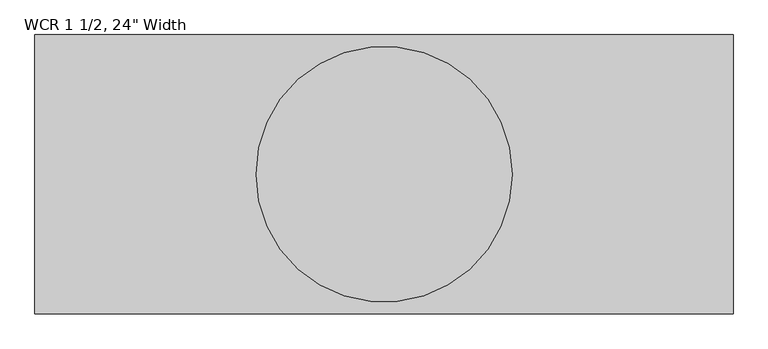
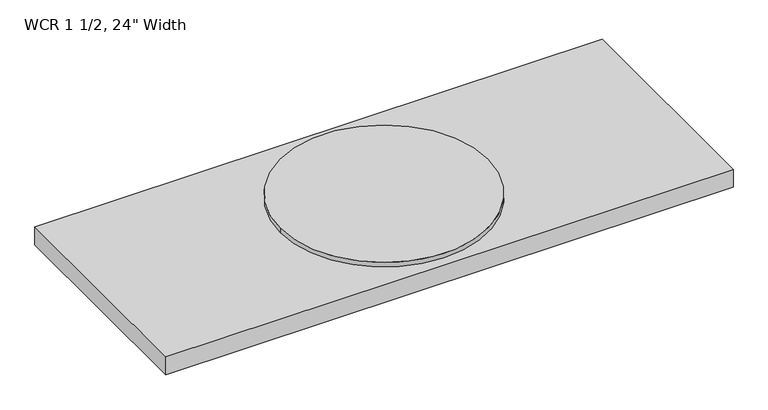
"""IFC4 building model written with IfcOpenShell, lengths in millimetres: proxy geometry."""

import ifcopenshell
import ifcopenshell.guid

model = None  # the IFC model being written
_history = None  # IfcOwnerHistory: only IFC2X3 demands one
_inside = {}  # id of a spatial element -> (the spatial element, [elements in it])
_under = {}  # id of a project, library or spatial element -> (it, [spatial elements below it])
_declared = {}  # id of a project -> (the project, [libraries it declares])
_typed = {}  # id of a type object -> (the type object, [elements of that type])
_made_of = {}  # id of a material, layer set ... -> (it, [elements and type objects made of it])


def new_model(schema):
    """Start an empty IFC model of exactly this schema.

    Asked for "IFC4X3", IfcOpenShell would pick the latest addendum, in which some entities
    have other attributes; the version numbers below select the first issue.
    IFC2X3 requires an IfcOwnerHistory on every rooted entity: one is made here for all.
    """
    global model, _history
    if schema == "IFC4X3":
        model = ifcopenshell.file(schema_version=(4, 3, 0, 0))
    else:
        model = ifcopenshell.file(schema=schema)
    _inside.clear()
    _under.clear()
    _declared.clear()
    _typed.clear()
    _made_of.clear()
    _history = None
    if model.schema == "IFC2X3":
        org = make("IfcOrganization", Name="unknown")
        user = make(
            "IfcPersonAndOrganization",
            ThePerson=make("IfcPerson", FamilyName="unknown"),
            TheOrganization=org,
        )
        app = make(
            "IfcApplication",
            ApplicationDeveloper=org,
            Version="unknown",
            ApplicationFullName="unknown",
            ApplicationIdentifier="unknown",
        )
        _history = make(
            "IfcOwnerHistory",
            OwningUser=user,
            OwningApplication=app,
            ChangeAction="ADDED",
            CreationDate=0,
        )
    return model


def make(cls, **values):
    """One entity of the class cls with the attributes given. An attribute that is None is left unset."""
    return model.create_entity(
        cls, **{name: value for name, value in values.items() if value is not None}
    )


def rooted(cls, **values):
    """An entity with a GlobalId (a new one), such as an element, a storey or a relation."""
    return make(cls, GlobalId=ifcopenshell.guid.new(), OwnerHistory=_history, **values)


def si_unit(unit_type, name, prefix=None):
    """IfcSIUnit, for example si_unit("LENGTHUNIT", "METRE", prefix="MILLI")."""
    return make("IfcSIUnit", UnitType=unit_type, Prefix=prefix, Name=name)


def assignment(units):
    """IfcUnitAssignment: the units of a project."""
    return None if units is None else make("IfcUnitAssignment", Units=units)


def point(xyz):
    """IfcCartesianPoint."""
    return None if xyz is None else make("IfcCartesianPoint", Coordinates=xyz)


def direction(xyz):
    """IfcDirection."""
    return None if xyz is None else make("IfcDirection", DirectionRatios=xyz)


def frame(location, z_axis=None, x_axis=None):
    """IfcAxis2Placement3D, a coordinate frame: its origin and axes. An axis left out is left unset."""
    return make(
        "IfcAxis2Placement3D",
        Location=point(location),
        Axis=direction(z_axis),
        RefDirection=direction(x_axis),
    )


def frame_2d(location, x_axis=None):
    """IfcAxis2Placement2D, a coordinate frame in the plane: its origin and x axis."""
    return make(
        "IfcAxis2Placement2D", Location=point(location), RefDirection=direction(x_axis)
    )


def origin():
    """The frame at (0, 0, 0) with its axes left unset."""
    return frame((0.0, 0.0, 0.0))


def origin_2d():
    """The frame at (0, 0) in the plane with its x axis left unset."""
    return frame_2d((0.0, 0.0))


def place(relative_to, where):
    """IfcLocalPlacement: puts the frame where relative to a parent placement (None: the world)."""
    return make(
        "IfcLocalPlacement", PlacementRelTo=relative_to, RelativePlacement=where
    )


def context(
    kind, dimensions, precision=None, world=None, true_north=None, identifier=None
):
    """IfcGeometricRepresentationContext, for example the 3D "Model" context."""
    return make(
        "IfcGeometricRepresentationContext",
        ContextIdentifier=identifier,
        ContextType=kind,
        CoordinateSpaceDimension=dimensions,
        Precision=precision,
        WorldCoordinateSystem=world,
        TrueNorth=true_north,
    )


def project(units=None, contexts=None):
    """IfcProject with its units and contexts."""
    return rooted(
        "IfcProject",
        Name="project",
        RepresentationContexts=contexts,
        UnitsInContext=assignment(units),
    )


def spatial(cls, under=None, at=None, **own):
    """A site, building, storey or space (cls), placed at a placement, below another one or the project."""
    s = rooted(cls, ObjectPlacement=at, **own)
    if under is not None:
        _under.setdefault(under.id(), (under, []))[1].append(s)
    return s


def polyline(points):
    """IfcPolyline through the points."""
    return make("IfcPolyline", Points=[point(p) for p in points])


def circle_curve(where, radius):
    """IfcCircle in the frame where."""
    return make("IfcCircle", Position=where, Radius=radius)


def trimmed(basis, trim1, trim2, sense, master):
    """IfcTrimmedCurve: the piece of a basis curve between two trims."""
    return make(
        "IfcTrimmedCurve",
        BasisCurve=basis,
        Trim1=trim1,
        Trim2=trim2,
        SenseAgreement=sense,
        MasterRepresentation=master,
    )


def segment(curve, same_sense, transition):
    """IfcCompositeCurveSegment."""
    return make(
        "IfcCompositeCurveSegment",
        Transition=transition,
        SameSense=same_sense,
        ParentCurve=curve,
    )


def composite_curve(segments, self_intersect=None):
    """IfcCompositeCurve: segments joined end to end."""
    return make("IfcCompositeCurve", Segments=segments, SelfIntersect=self_intersect)


def outline(outer, holes=None, kind="AREA"):
    """IfcArbitraryClosedProfileDef: a profile drawn as a closed curve; with holes, ...WithVoids."""
    if holes is None:
        return make("IfcArbitraryClosedProfileDef", ProfileType=kind, OuterCurve=outer)
    return make(
        "IfcArbitraryProfileDefWithVoids",
        ProfileType=kind,
        OuterCurve=outer,
        InnerCurves=holes,
    )


def extrude(swept, where, along, depth):
    """IfcExtrudedAreaSolid: the profile swept, set in the frame where, extruded along a direction by depth."""
    return make(
        "IfcExtrudedAreaSolid",
        SweptArea=swept,
        Position=where,
        ExtrudedDirection=direction(along),
        Depth=depth,
    )


def shape(context_of_items, identifier, shape_type, items):
    """IfcShapeRepresentation: the items that make up one representation, for example the "Body"."""
    return make(
        "IfcShapeRepresentation",
        ContextOfItems=context_of_items,
        RepresentationIdentifier=identifier,
        RepresentationType=shape_type,
        Items=items,
    )


def source(mapping_origin, context_of_items, identifier, shape_type, items):
    """IfcRepresentationMap: a shape defined once, which mapped items show again and again."""
    return make(
        "IfcRepresentationMap",
        MappingOrigin=mapping_origin,
        MappedRepresentation=shape(context_of_items, identifier, shape_type, items),
    )


def transform(
    local_origin,
    x_axis=None,
    y_axis=None,
    z_axis=None,
    scale=None,
    scale2=None,
    scale3=None,
    uniform=True,
):
    """IfcCartesianTransformationOperator3D, or its non-uniform kind. x_axis, y_axis, z_axis: its Axis1, 2, 3."""
    if uniform:
        return make(
            "IfcCartesianTransformationOperator3D",
            Axis1=direction(x_axis),
            Axis2=direction(y_axis),
            LocalOrigin=point(local_origin),
            Scale=scale,
            Axis3=direction(z_axis),
        )
    return make(
        "IfcCartesianTransformationOperator3DnonUniform",
        Axis1=direction(x_axis),
        Axis2=direction(y_axis),
        LocalOrigin=point(local_origin),
        Scale=scale,
        Axis3=direction(z_axis),
        Scale2=scale2,
        Scale3=scale3,
    )


def mapped(mapping_source, mapping_target):
    """IfcMappedItem: shows the shape of a source again, moved by a transform."""
    return make(
        "IfcMappedItem", MappingSource=mapping_source, MappingTarget=mapping_target
    )


def made_of(thing, what):
    """Note that an element or type object is made of a material, layer set ...; save() writes the relation."""
    if what is not None:
        _made_of.setdefault(what.id(), (what, []))[1].append(thing)
    return thing


def element(
    cls,
    number,
    at=None,
    inside=None,
    cuts=None,
    type_object=None,
    material=None,
    context=None,
    identifier="Body",
    shape_type=None,
    held_by="IfcProductDefinitionShape",
    body=None,
    shapes=None,
    **own,
):
    """One element of the class cls, such as IfcWall. Its Tag is "e" and its number.

    at: its placement. inside: the storey or other place that contains it. cuts: it is an
    opening in that element (IfcRelVoidsElement). A single representation is given by context,
    identifier, shape_type and body (its items); several are given by shapes. held_by: the class
    of the entity that holds the representations. save() writes the other relations.
    """
    e = rooted(cls, Tag="e%d" % number, ObjectPlacement=at, **own)
    if body is not None:
        shapes = [shape(context, identifier, shape_type, body)]
    if shapes is not None:
        e.Representation = make(held_by, Representations=shapes)
    if inside is not None:
        _inside.setdefault(inside.id(), (inside, []))[1].append(e)
    if cuts is not None:
        rooted(
            "IfcRelVoidsElement", RelatingBuildingElement=cuts, RelatedOpeningElement=e
        )
    if type_object is not None:
        _typed.setdefault(type_object.id(), (type_object, []))[1].append(e)
    return made_of(e, material)


def aggregate(whole, parts):
    """IfcRelAggregates: a whole, such as a stair, and the parts it consists of."""
    return rooted("IfcRelAggregates", RelatingObject=whole, RelatedObjects=parts)


def save(model, path):
    """Write the relations noted so far, then the file.

    IfcRelAggregates (storeys below a building ...), IfcRelContainedInSpatialStructure (elements
    in a storey), IfcRelDefinesByType, IfcRelAssociatesMaterial and IfcRelDeclares: one each for
    every whole, place, type object, material and project.
    """
    for whole, parts in _under.values():
        aggregate(whole, parts)
    for where, things in _inside.values():
        rooted(
            "IfcRelContainedInSpatialStructure",
            RelatedElements=things,
            RelatingStructure=where,
        )
    for kind, things in _typed.values():
        rooted("IfcRelDefinesByType", RelatedObjects=things, RelatingType=kind)
    for what, things in _made_of.values():
        rooted("IfcRelAssociatesMaterial", RelatedObjects=things, RelatingMaterial=what)
    for by, libraries in _declared.values():
        rooted("IfcRelDeclares", RelatingContext=by, RelatedDefinitions=libraries)
    model.write(path)


def proxy_c3b5d53f(model_context):
    return source(origin(), model_context, "Body", "SweptSolid", [
        extrude(outline(composite_curve([segment(trimmed(circle_curve(origin_2d(), 279.4), [point((-279.4, 0.0))], [point((279.4, 0.0))], False, "CARTESIAN"), True, "CONTINUOUS"), segment(trimmed(circle_curve(origin_2d(), 279.4), [point((279.4, 0.0))], [point((-279.4, 0.0))], False, "CARTESIAN"), True, "CONTINUOUS")], self_intersect=False)), frame((0.0, 0.0, 12.7), z_axis=(0.0, 0.0, 1.0), x_axis=(1.0, 0.0, 0.0)), (0.0, 0.0, 1.0), 12.7),
        extrude(outline(polyline([(762.0, 304.8), (762.0, -304.8), (-762.0, -304.8), (-762.0, 304.8), (762.0, 304.8)])), frame((0.0, 0.0, -38.1), z_axis=(0.0, 0.0, 1.0), x_axis=(1.0, 0.0, 0.0)), (0.0, 0.0, 1.0), 50.8),
    ])


if __name__ == "__main__":
    model = new_model("IFC4")
    model_context = context("Model", 3, world=origin())
    ifc_project = project(units=[si_unit("LENGTHUNIT", "METRE", prefix="MILLI")], contexts=[model_context])
    site = spatial("IfcSite", under=ifc_project)
    building = spatial("IfcBuilding", under=site)
    placement = place(None, origin())
    proxy_shape = proxy_c3b5d53f(model_context)
    element("IfcBuildingElementProxy", 1, Name="Junction_Box_Header-Walkercell-Wiremold : WCR 1 1/2, 24\" Width", ObjectType="Junction_Box_Header-Walkercell-Wiremold : WCR 1 1/2, 24\" Width", at=placement, inside=building, context=model_context, shape_type="MappedRepresentation", body=[
        mapped(proxy_shape, transform((0.0, 0.0, 0.0), x_axis=(1.0, 0.0, 0.0), y_axis=(0.0, 1.0, 0.0), z_axis=(0.0, 0.0, 1.0))),
    ])
    save(model, "model.ifc")
